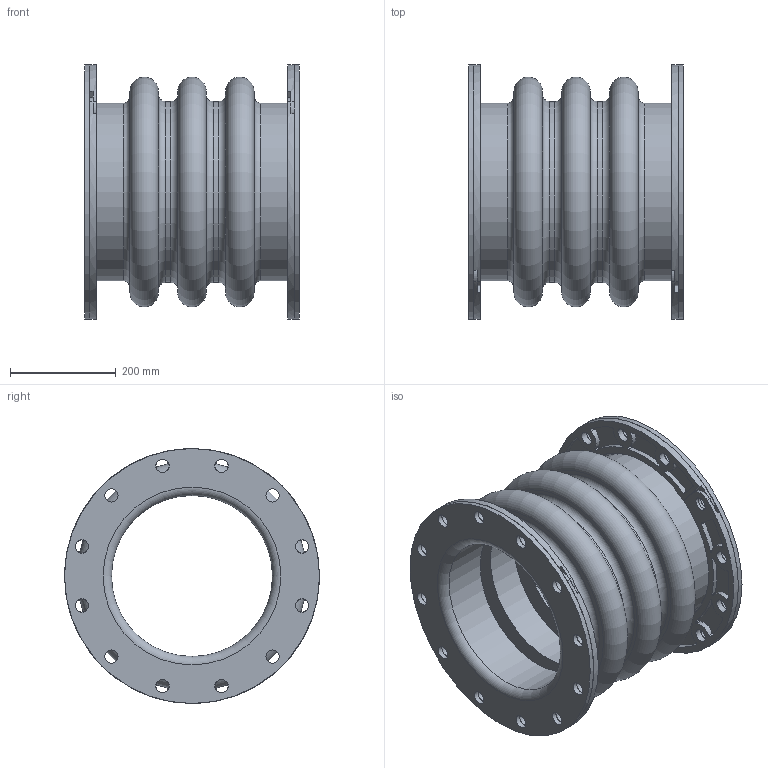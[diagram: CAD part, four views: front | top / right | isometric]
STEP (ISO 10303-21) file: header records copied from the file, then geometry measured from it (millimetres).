
FILE_DESCRIPTION(/* description */ (''),/* implementation_level */ '2;1');
FILE_NAME(/* name */ 'C:\001_Work\Designs\Mercer2014\MQInventor2014\RajR\500 Style\503\New folder\503 12IDx16FF.stp',/* time_stamp */ '2016-03-26T18:05:00-04:00',/* author */ ('rramoutar'),/* organization */ ('Mason Industries Inc.'),/* preprocessor_version */ 'ST-DEVELOPER v15.6',/* originating_system */ 'Autodesk Inventor 2015',/* authorisation */ '');
FILE_SCHEMA (('CONFIG_CONTROL_DESIGN'));
Length unit declared in the file: inch
Products named in the file (1): 503 12IDx16FF
Bounding box: 406.4 x 482.61 x 482.61 mm (x, y, z)
Volume: 14261551 mm3; surface area: 2269257.8 mm2
Topology: 3 solids, 3 shells, 447 faces, 1210 edges, 791 vertices
Faces by surface type: cylinder 307, plane 112, torus 16, cone 12
Full cylindrical faces by diameter (mm): 25.4 x50, 304.8 x4, 336.55 x2, 342.9 x2, 349.25 x1, 482.6 x2
Entity records: 14535 total; most frequent: DIRECTION 2676, CARTESIAN_POINT 2346, ORIENTED_EDGE 2228, EDGE_CURVE 1114, AXIS2_PLACEMENT_3D 1114, VERTEX_POINT 784, CIRCLE 666, EDGE_LOOP 660
